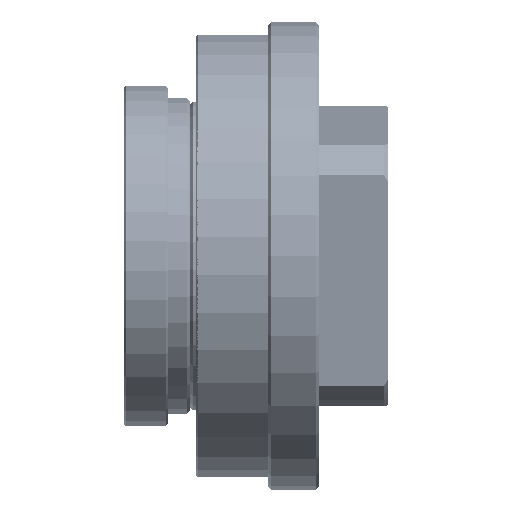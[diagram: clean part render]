
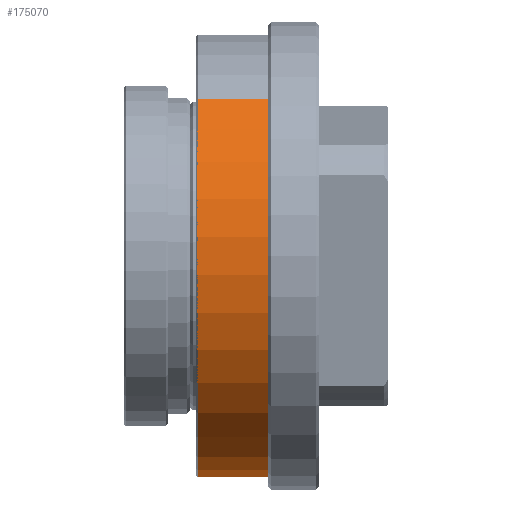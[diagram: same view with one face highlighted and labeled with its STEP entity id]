
A CAD part, left-side view. The second image highlights one B-rep face of the part: STEP entity #175070.
In plain terms, the highlighted cylindrical face has radius 35 mm (diameter 70 mm), a partial arc.
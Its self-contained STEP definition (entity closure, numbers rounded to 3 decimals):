
#748 = CIRCLE ( 'NONE', #200914, 35. ) ;
#1602 = CARTESIAN_POINT ( 'NONE',  ( 0., 0., 13.85 ) ) ;
#5767 = CIRCLE ( 'NONE', #220942, 35. ) ;
#14259 = VERTEX_POINT ( 'NONE', #20260 ) ;
#18132 = DIRECTION ( 'NONE',  ( 0., 0., -1. ) ) ;
#20260 = CARTESIAN_POINT ( 'NONE',  ( 35., 0., 13.85 ) ) ;
#31463 = CARTESIAN_POINT ( 'NONE',  ( -35., 0., 13.85 ) ) ;
#35790 = DIRECTION ( 'NONE',  ( 0., 0., -1. ) ) ;
#36902 = DIRECTION ( 'NONE',  ( -1., 0., 0. ) ) ;
#52369 = ORIENTED_EDGE ( 'NONE', *, *, #144908, .T. ) ;
#58554 = VERTEX_POINT ( 'NONE', #31463 ) ;
#58755 = VECTOR ( 'NONE', #100731, 1000. ) ;
#73523 = CARTESIAN_POINT ( 'NONE',  ( 0., 0., 14.1 ) ) ;
#73653 = DIRECTION ( 'NONE',  ( -1., 0., 0. ) ) ;
#74737 = LINE ( 'NONE', #217846, #185375 ) ;
#97751 = EDGE_LOOP ( 'NONE', ( #52369, #201404, #148349, #148917 ) ) ;
#100731 = DIRECTION ( 'NONE',  ( 0., 0., -1. ) ) ;
#105376 = CARTESIAN_POINT ( 'NONE',  ( -35., 0., 14.1 ) ) ;
#107222 = CARTESIAN_POINT ( 'NONE',  ( 35., 0., 0.35 ) ) ;
#129469 = EDGE_CURVE ( 'NONE', #58554, #143688, #139717, .T. ) ;
#133969 = CARTESIAN_POINT ( 'NONE',  ( 0., 0., 0.35 ) ) ;
#139717 = LINE ( 'NONE', #105376, #58755 ) ;
#143688 = VERTEX_POINT ( 'NONE', #232628 ) ;
#144908 = EDGE_CURVE ( 'NONE', #58554, #14259, #748, .T. ) ;
#148349 = ORIENTED_EDGE ( 'NONE', *, *, #184317, .T. ) ;
#148917 = ORIENTED_EDGE ( 'NONE', *, *, #129469, .F. ) ;
#152075 = AXIS2_PLACEMENT_3D ( 'NONE', #73523, #198902, #36902 ) ;
#161078 = CYLINDRICAL_SURFACE ( 'NONE', #152075, 35. ) ;
#168299 = DIRECTION ( 'NONE',  ( 0., 0., 1. ) ) ;
#175070 = ADVANCED_FACE ( 'NONE', ( #178785 ), #161078, .T. ) ;
#178785 = FACE_OUTER_BOUND ( 'NONE', #97751, .T. ) ;
#184317 = EDGE_CURVE ( 'NONE', #205462, #143688, #5767, .T. ) ;
#185375 = VECTOR ( 'NONE', #35790, 1000. ) ;
#198902 = DIRECTION ( 'NONE',  ( 0., 0., -1. ) ) ;
#200914 = AXIS2_PLACEMENT_3D ( 'NONE', #1602, #18132, #73653 ) ;
#201404 = ORIENTED_EDGE ( 'NONE', *, *, #206150, .T. ) ;
#205462 = VERTEX_POINT ( 'NONE', #107222 ) ;
#206150 = EDGE_CURVE ( 'NONE', #14259, #205462, #74737, .T. ) ;
#217846 = CARTESIAN_POINT ( 'NONE',  ( 35., 0., 14.1 ) ) ;
#220373 = DIRECTION ( 'NONE',  ( 1., 0., 0. ) ) ;
#220942 = AXIS2_PLACEMENT_3D ( 'NONE', #133969, #168299, #220373 ) ;
#232628 = CARTESIAN_POINT ( 'NONE',  ( -35., 0., 0.35 ) ) ;
